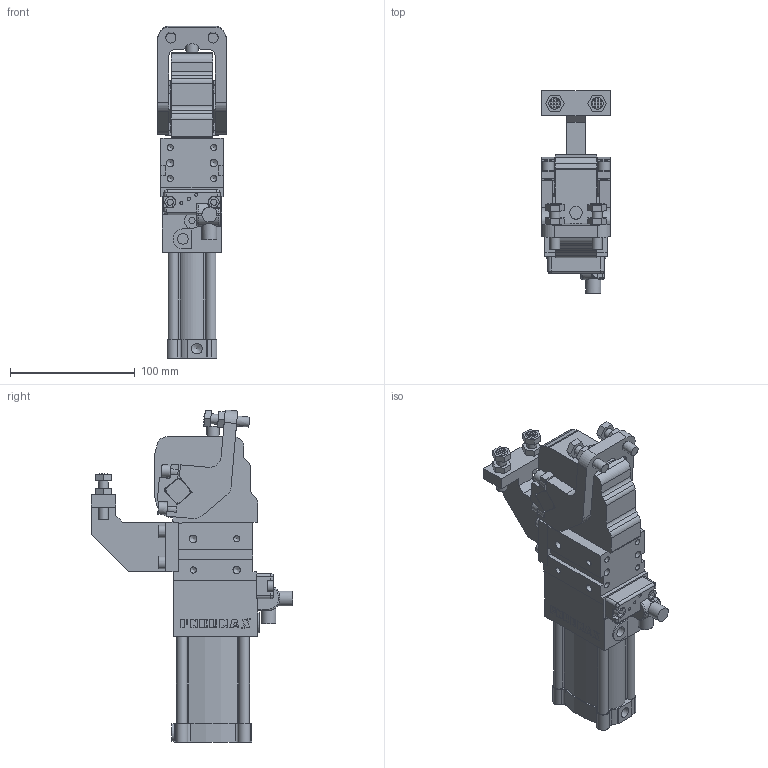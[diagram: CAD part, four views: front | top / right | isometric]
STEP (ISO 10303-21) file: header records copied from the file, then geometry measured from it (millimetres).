
FILE_DESCRIPTION(/* description */ (''),/* implementation_level */ '2;1');
FILE_NAME(/* name */ 'I:\Area Tecnica\Progetti\P121 - BLOCCAGGI\3D\MODELLI 3D E TABELLARI\CHIUSURA 40 MONTATA\JP40EG###.stp',/* time_stamp */ '2015-06-30T11:14:13+02:00',/* author */ ('donadda1'),/* organization */ ('Pneumax S.p.A.'),/* preprocessor_version */ 'ST-DEVELOPER v15.2',/* originating_system */ 'Autodesk Inventor 2014',/* authorisation */ '');
FILE_SCHEMA (('CONFIG_CONTROL_DESIGN','AUTOMOTIVE_DESIGN { 1 0 10303 214 3 1 1 }'));
Length unit declared in the file: millimetre
Products named in the file (6): GRIPPER 40; SENSOR_PNX; SENSOR_PNX_CONN_90°; GRIPPER-ARM-KNURLED-SCREWS; GRIPPER-SUPPORT-KNURLED-SCREWS; JP40EG###
Bounding box: 55.86 x 162.17 x 266.55 mm (x, y, z)
Volume: 768523.1 mm3; surface area: 119912.7 mm2
Topology: 5 solids, 5 shells, 865 faces, 2159 edges, 1382 vertices
Faces by surface type: plane 578, cylinder 195, cone 73, bspline 9, torus 8, sphere 2
Full cylindrical faces by diameter (mm): 4.134 x2, 4.917 x12, 5 x4, 5.489 x4, 6 x12, 6.5 x4, 8 x8, 8.5 x4, 8.566 x2, 10 x9, 12 x2, 14 x2, 18 x1, 20 x2
Entity records: 24964 total; most frequent: CARTESIAN_POINT 4765, DIRECTION 4170, ORIENTED_EDGE 4052, EDGE_CURVE 2026, AXIS2_PLACEMENT_3D 1420, VERTEX_POINT 1342, LINE 1330, VECTOR 1330
